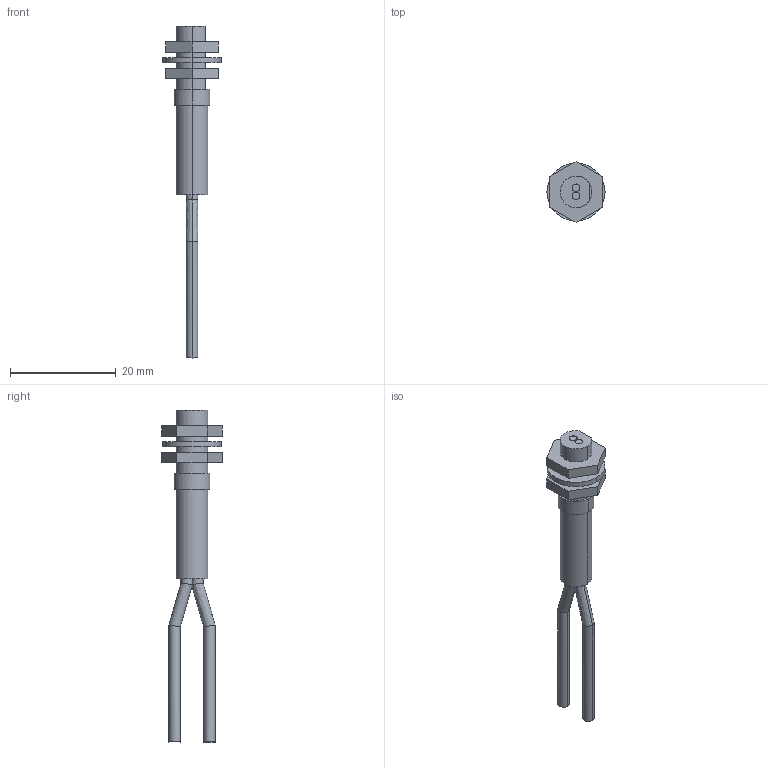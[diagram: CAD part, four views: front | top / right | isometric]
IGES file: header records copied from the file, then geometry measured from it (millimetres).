
Start section: SolidWorks IGES FILE using analytic representation for surfaces
Global section: file name: C:\Documents and Settings\yk0651\デスクトップ\3D_catalog_050904\0_IGES\FD-B8.IGS; native system: SolidWorks 2004 by SolidWorks Corporation; preprocessor: Version 5.3; author: yk0651; date: 050904.181805; units: millimetre
Bounding box: 11 x 11.55 x 62.94 mm (x, y, z)
Volume: 1452.7 mm3; surface area: 1746 mm2
Topology: 4 solids, 4 shells, 57 faces, 124 edges, 80 vertices
Faces by surface type: revolution 30, plane 27
